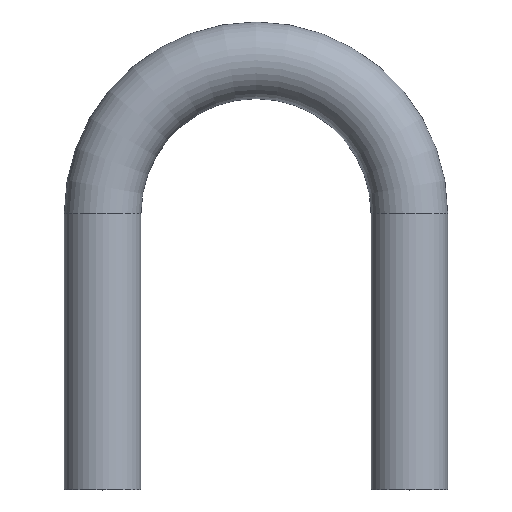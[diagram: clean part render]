
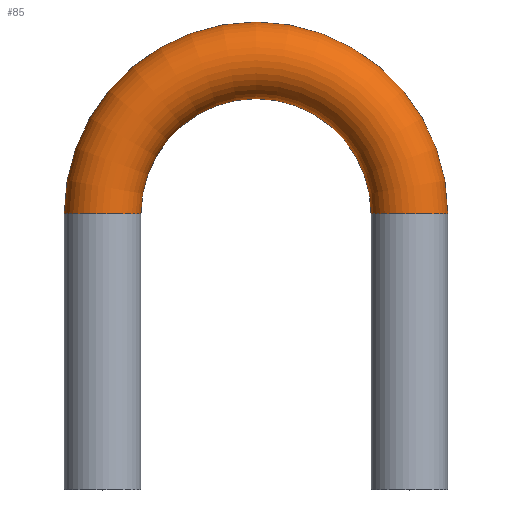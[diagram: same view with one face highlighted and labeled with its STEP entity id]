
A CAD part, top view. The second image highlights one B-rep face of the part: STEP entity #85.
In plain terms, the highlighted toroidal (fillet/blend) face has major radius 20 mm and minor radius 5 mm.
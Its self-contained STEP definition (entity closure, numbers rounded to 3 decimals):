
#17=TOROIDAL_SURFACE('',#114,20.,5.);
#19=FACE_OUTER_BOUND('',#24,.T.);
#24=EDGE_LOOP('',(#66,#67,#68,#69,#70,#71));
#34=CIRCLE('',#112,5.);
#35=CIRCLE('',#113,5.);
#36=CIRCLE('',#115,15.);
#37=CIRCLE('',#116,5.);
#38=CIRCLE('',#117,5.);
#43=VERTEX_POINT('',#161);
#44=VERTEX_POINT('',#163);
#45=VERTEX_POINT('',#167);
#46=VERTEX_POINT('',#169);
#52=EDGE_CURVE('',#43,#44,#34,.T.);
#53=EDGE_CURVE('',#44,#43,#35,.T.);
#54=EDGE_CURVE('',#43,#45,#36,.T.);
#55=EDGE_CURVE('',#45,#46,#37,.T.);
#56=EDGE_CURVE('',#46,#45,#38,.T.);
#66=ORIENTED_EDGE('',*,*,#53,.F.);
#67=ORIENTED_EDGE('',*,*,#52,.F.);
#68=ORIENTED_EDGE('',*,*,#54,.T.);
#69=ORIENTED_EDGE('',*,*,#55,.T.);
#70=ORIENTED_EDGE('',*,*,#56,.T.);
#71=ORIENTED_EDGE('',*,*,#54,.F.);
#85=ADVANCED_FACE('',(#19),#17,.T.);
#112=AXIS2_PLACEMENT_3D('',#164,#132,#133);
#113=AXIS2_PLACEMENT_3D('',#165,#134,#135);
#114=AXIS2_PLACEMENT_3D('',#166,#136,#137);
#115=AXIS2_PLACEMENT_3D('',#168,#138,#139);
#116=AXIS2_PLACEMENT_3D('',#170,#140,#141);
#117=AXIS2_PLACEMENT_3D('',#171,#142,#143);
#132=DIRECTION('center_axis',(0.,-1.,0.));
#133=DIRECTION('ref_axis',(-1.,0.,0.));
#134=DIRECTION('center_axis',(0.,-1.,0.));
#135=DIRECTION('ref_axis',(-1.,0.,0.));
#136=DIRECTION('center_axis',(0.,0.,1.));
#137=DIRECTION('ref_axis',(1.,0.,0.));
#138=DIRECTION('center_axis',(0.,0.,-1.));
#139=DIRECTION('ref_axis',(1.,0.,0.));
#140=DIRECTION('center_axis',(0.,1.,0.));
#141=DIRECTION('ref_axis',(1.,0.,0.));
#142=DIRECTION('center_axis',(0.,1.,0.));
#143=DIRECTION('ref_axis',(1.,0.,0.));
#161=CARTESIAN_POINT('',(-15.,0.,0.));
#163=CARTESIAN_POINT('',(-25.,0.,0.));
#164=CARTESIAN_POINT('Origin',(-20.,0.,0.));
#165=CARTESIAN_POINT('Origin',(-20.,0.,0.));
#166=CARTESIAN_POINT('Origin',(0.,0.,0.));
#167=CARTESIAN_POINT('',(15.,0.,0.));
#168=CARTESIAN_POINT('Origin',(0.,0.,0.));
#169=CARTESIAN_POINT('',(25.,0.,0.));
#170=CARTESIAN_POINT('Origin',(20.,0.,0.));
#171=CARTESIAN_POINT('Origin',(20.,0.,0.));
